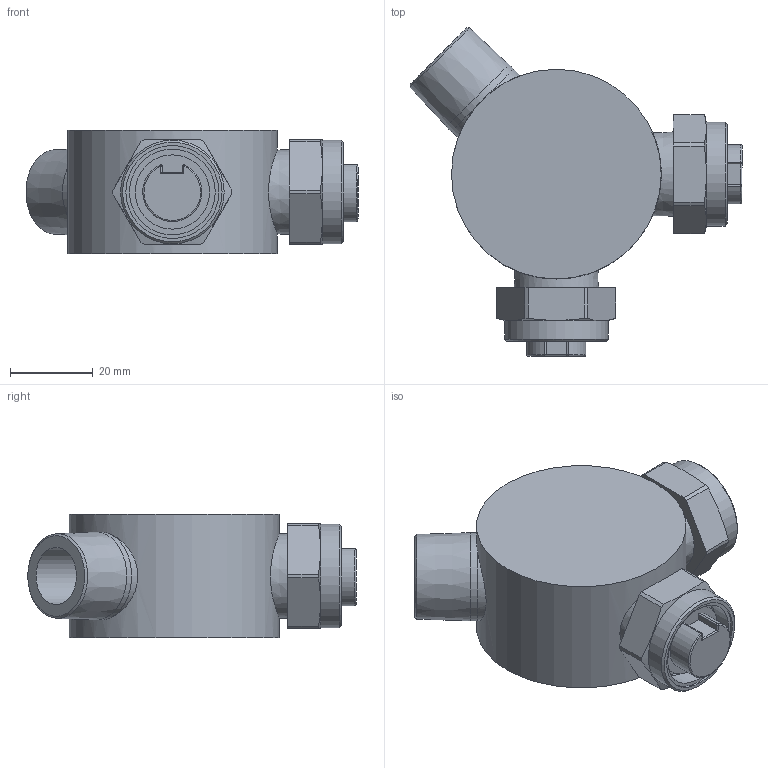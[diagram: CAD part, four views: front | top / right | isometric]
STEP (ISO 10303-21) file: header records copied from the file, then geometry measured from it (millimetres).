
FILE_DESCRIPTION(/* description */ ('PART (MM)'),/* implementation_level */ '2;1');
FILE_NAME(/* name */ 'L:\CAD Inventor\Workspace\Catalogs\Process Wiring\P-2RKFV-40EX_14.5_NPT.stp',/* time_stamp */ '2021-07-15T11:15:18-05:00',/* author */ ('RSwans'),/* organization */ (''),/* preprocessor_version */ 'ST-DEVELOPER v16.5',/* originating_system */ 'Autodesk Inventor 2017',/* authorisation */ '');
FILE_SCHEMA (('AUTOMOTIVE_DESIGN { 1 0 10303 214 3 1 1 }'));
Length unit declared in the file: millimetre
Products named in the file (1): Part1
Bounding box: 80.41 x 79.49 x 30 mm (x, y, z)
Volume: 64258.9 mm3; surface area: 23025 mm2
Topology: 1 solids, 5 shells, 216 faces, 482 edges, 308 vertices
Faces by surface type: cylinder 102, plane 70, cone 24, bspline 8, torus 8, sphere 4
Full cylindrical faces by diameter (mm): 1.9 x8, 3.2 x8, 3.3 x8, 13.868 x1, 14 x6, 14.2 x8, 16 x4, 17.813 x3, 18 x2, 20.773 x2, 21.336 x1, 22.5 x4, 25.1 x2, 50.8 x1
Entity records: 5935 total; most frequent: CARTESIAN_POINT 1401, DIRECTION 962, ORIENTED_EDGE 698, AXIS2_PLACEMENT_3D 438, EDGE_CURVE 349, EDGE_LOOP 345, VERTEX_POINT 264, CIRCLE 222
